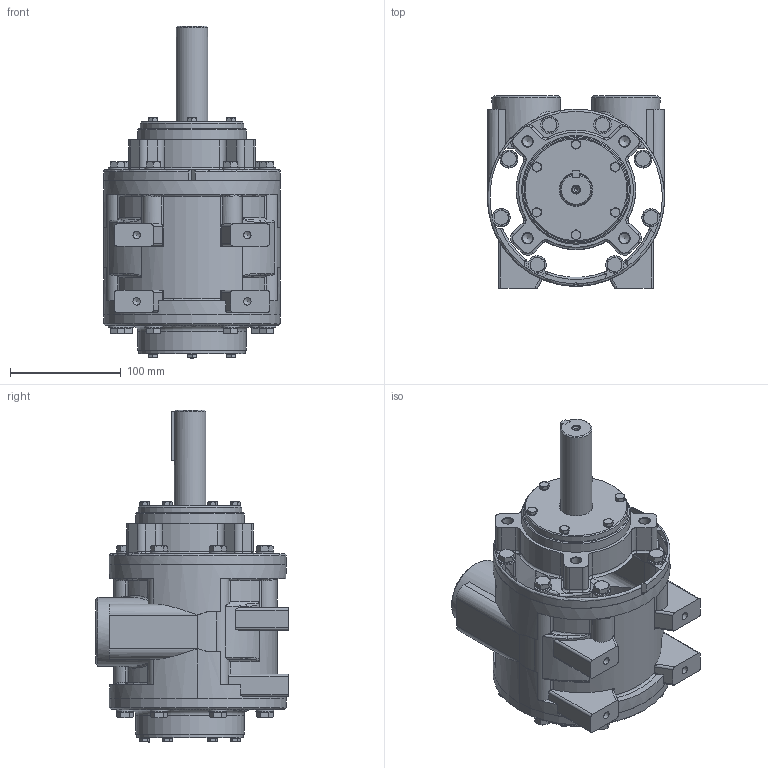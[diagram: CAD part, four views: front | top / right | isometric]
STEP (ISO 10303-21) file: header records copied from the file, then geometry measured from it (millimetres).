
FILE_DESCRIPTION (( 'STEP AP214' ), '1' );
FILE_NAME ('VA10X Defeature.STEP', '2022-06-14T09:53:16', ( '' ), ( '' ), 'SwSTEP 2.0', 'SolidWorks 2020', '' );
FILE_SCHEMA (( 'AUTOMOTIVE_DESIGN' ));
Length unit declared in the file: millimetre
Products named in the file (1): VA10X Defeature
Bounding box: 160 x 174 x 300.2 mm (x, y, z)
Volume: 3571867.8 mm3; surface area: 177442.6 mm2
Topology: 1 solids, 1 shells, 986 faces, 2391 edges, 1398 vertices
Faces by surface type: plane 475, cone 191, cylinder 180, bspline 112, torus 24, sphere 4
Full cylindrical faces by diameter (mm): 3 x1, 6.8 x4, 8 x13, 9.347 x4, 13 x16, 16 x16, 28.575 x1, 30.5 x1, 38.952 x2, 62 x2, 94 x1, 96 x1, 98 x1, 98.4 x1, 158 x2, 160 x3
Entity records: 44408 total; most frequent: CARTESIAN_POINT 20271, ORIENTED_EDGE 4390, DIRECTION 4043, EDGE_CURVE 2195, AXIS2_PLACEMENT_3D 1636, VERTEX_POINT 1343, EDGE_LOOP 1118, FACE_OUTER_BOUND 1056
